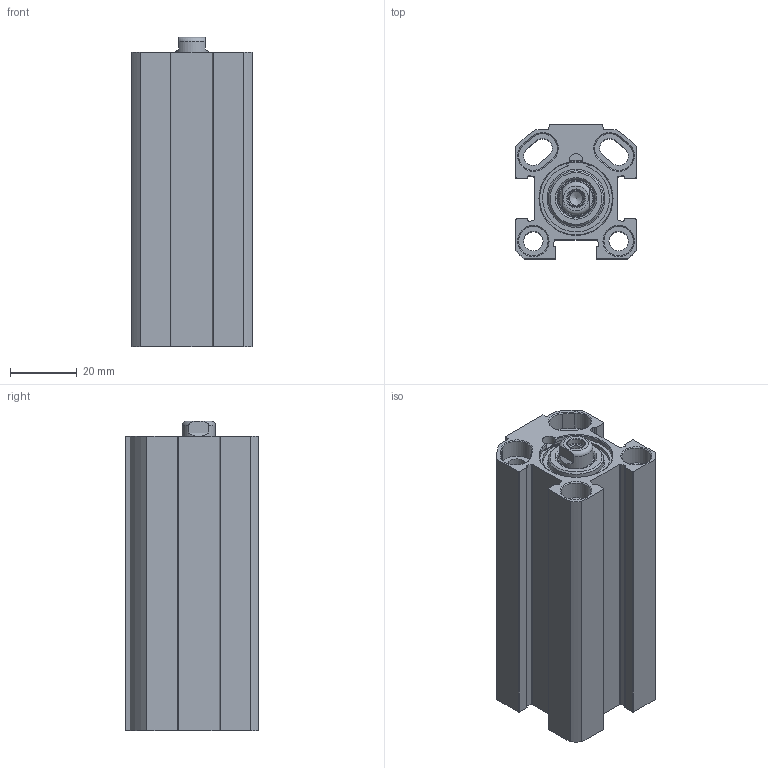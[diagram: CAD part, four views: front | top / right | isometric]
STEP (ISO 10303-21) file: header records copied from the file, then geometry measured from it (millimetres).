
FILE_DESCRIPTION(/* description */ ('Unknown'),/* implementation_level */ '2;1');
FILE_NAME(/* name */ 'FIN 20_50',/* time_stamp */ '2026-05-12T07:49:06+02:00',/* author */ ('Unknown'),/* organization */ ('Unknown'),/* preprocessor_version */ 'ST-DEVELOPER v18.102',/* originating_system */ 'Solid Edge',/* authorisation */ 'Unknown');
FILE_SCHEMA (('AUTOMOTIVE_DESIGN {1 0 10303 214 3 1 1}'));
Length unit declared in the file: millimetre
Products named in the file (5): FIN 20_50; Kolbenstange; Profilrohr; Kit_1; Kit_2
Assembly tree (4 placements, depth 2):
  FIN 20_50
    Kolbenstange
    Profilrohr
    Kit_1
    Kit_2
Bounding box: 36 x 40 x 92.5 mm (x, y, z)
Volume: 74430.7 mm3; surface area: 38396.7 mm2
Topology: 6 solids, 6 shells, 220 faces, 522 edges, 335 vertices
Faces by surface type: plane 99, cylinder 80, cone 31, torus 10
Full cylindrical faces by diameter (mm): 1.6 x2, 4.134 x6, 5.25 x1, 5.8 x2, 8.8 x4, 10 x1, 10.48 x1, 11.4 x1, 13.84 x1, 14 x1, 16.5 x1, 17.6 x1, 20 x2, 20.1 x1, 21.6 x5, 22.8 x2
Entity records: 7389 total; most frequent: CARTESIAN_POINT 1118, DIRECTION 1084, ORIENTED_EDGE 888, EDGE_CURVE 444, AXIS2_PLACEMENT_3D 429, VERTEX_POINT 319, FACE_BOUND 319, EDGE_LOOP 318
